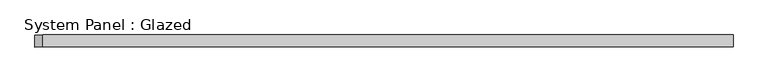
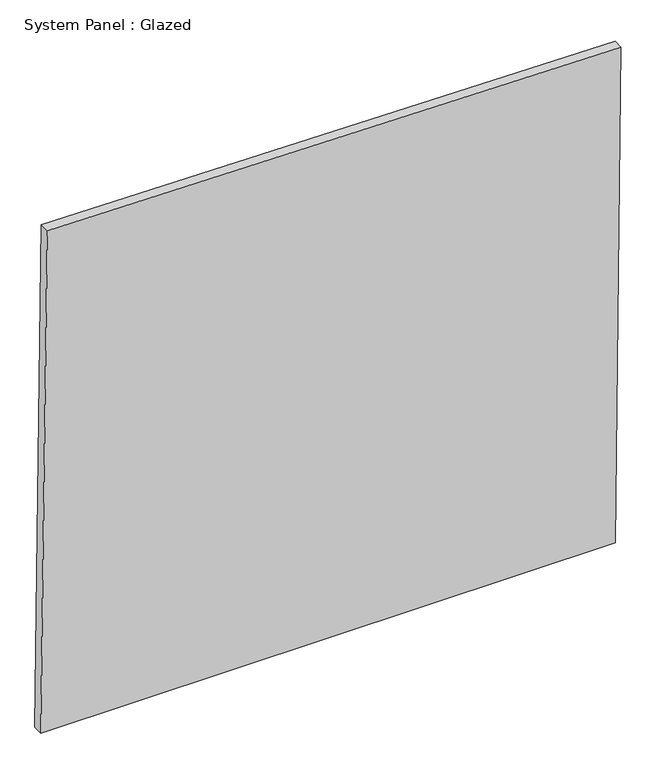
"""IFC4 building model written with IfcOpenShell, lengths in millimetres: plate geometry, System Panel : Glazed."""

from ifc_helpers import new_model, si_unit, frame, origin, place, context, project, spatial, polyline, outline, extrude, source, transform, mapped, element, save


def system_panel_glazed_8da5e829(model_context):
    return source(origin(), model_context, "Body", "SweptSolid", [
        extrude(outline(polyline([(0.0, -728.0901531), (0.0, 713.5300756), (1310.4845399, 728.0901531), (1327.441649, -711.5792484), (0.0, -728.0901531)])), frame((0.0, -49.5, 0.0), z_axis=(0.0, 1.0, 0.0), x_axis=(0.0, 0.0, 1.0)), (0.0, 0.0, 1.0), 25.0),
    ])


if __name__ == "__main__":
    model = new_model("IFC4")
    model_context = context("Model", 3, world=origin())
    ifc_project = project(units=[si_unit("LENGTHUNIT", "METRE", prefix="MILLI")], contexts=[model_context])
    site = spatial("IfcSite", under=ifc_project)
    building = spatial("IfcBuilding", under=site)
    placement = place(None, origin())
    system_panel_glazed_shape = system_panel_glazed_8da5e829(model_context)
    element("IfcPlate", 1, ObjectType="System Panel : Glazed", at=placement, inside=building, context=model_context, shape_type="MappedRepresentation", body=[
        mapped(system_panel_glazed_shape, transform((0.0, 0.0, 0.0), x_axis=(1.0, 0.0, 0.0), y_axis=(0.0, 1.0, 0.0), z_axis=(0.0, 0.0, 1.0))),
    ])
    save(model, "model.ifc")
